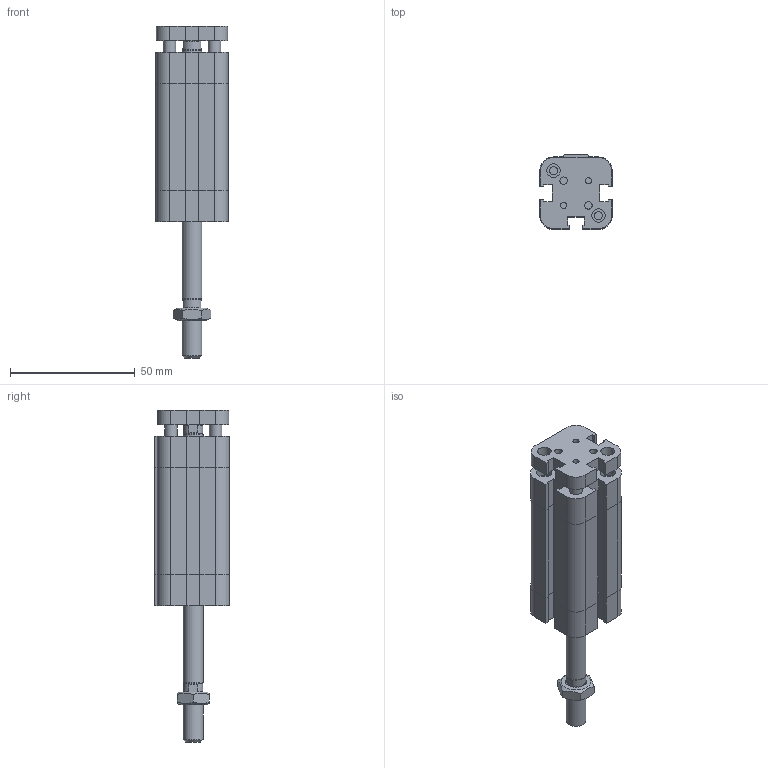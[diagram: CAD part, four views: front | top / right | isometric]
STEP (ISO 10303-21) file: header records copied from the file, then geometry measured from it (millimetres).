
FILE_DESCRIPTION((''),'2;1');
FILE_NAME('I:\Area Tecnica\Disegni\VARIE-3D\Componenti\EUROPE\15##_###_####_09_#\1581_16_0030_09_1.iam.stp','2009-04-20T15:42:42',(''),(''),'Autodesk Inventor 2009','Autodesk Inventor 2009','');
FILE_SCHEMA(('AUTOMOTIVE_DESIGN { 1 0 10303 214 1 1 1 1 }'));
Length unit declared in the file: millimetre
Products named in the file (4): 1581_16_0030_09_1; 1581_16_0030_08_1_C; 1561_16_0030_09_1_SA; DBM8
Assembly tree (3 placements, depth 2):
  1581_16_0030_09_1
    1581_16_0030_08_1_C
    1561_16_0030_09_1_SA
    DBM8
Bounding box: 29 x 30 x 133 mm (x, y, z)
Volume: 56783.9 mm3; surface area: 22916.5 mm2
Topology: 3 solids, 3 shells, 223 faces, 523 edges, 326 vertices
Faces by surface type: plane 144, bspline 46, cylinder 23, cone 10
Full cylindrical faces by diameter (mm): 5 x2, 6.5 x1, 7.8 x2, 8 x2
Entity records: 6544 total; most frequent: CARTESIAN_POINT 1548, ORIENTED_EDGE 934, DIRECTION 916, EDGE_CURVE 467, VECTOR 346, LINE 346, VERTEX_POINT 309, EDGE_LOOP 298
